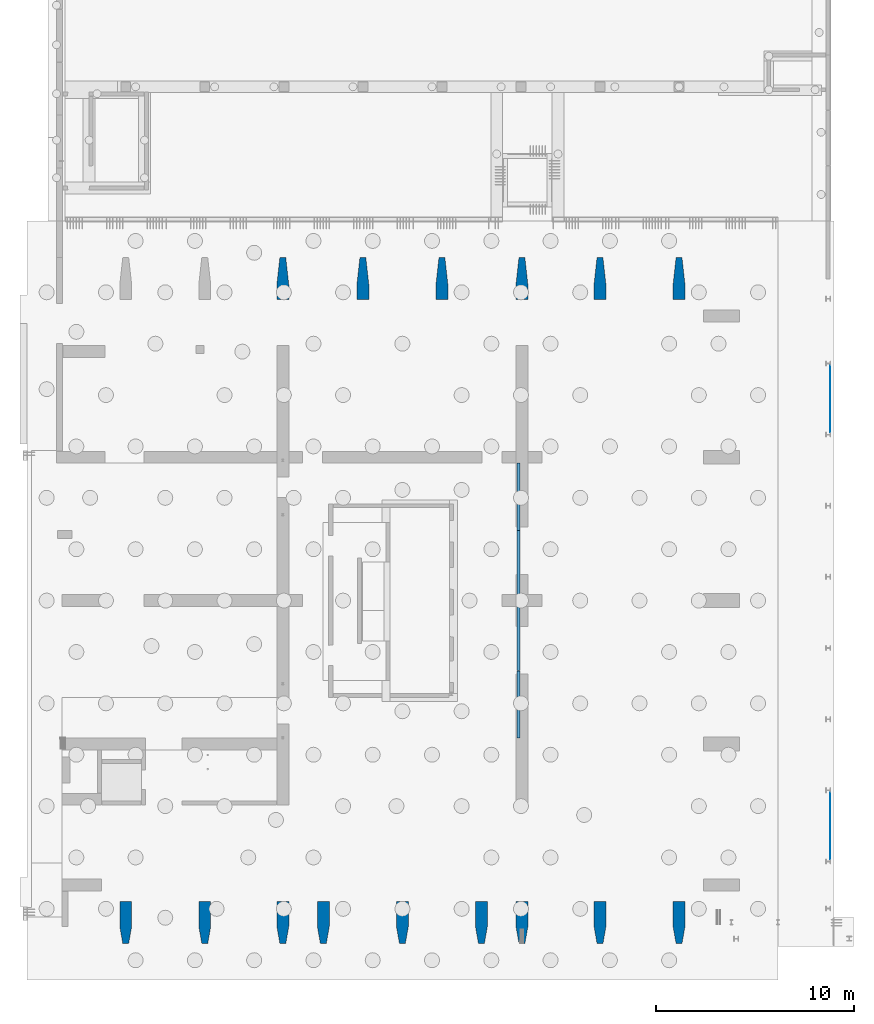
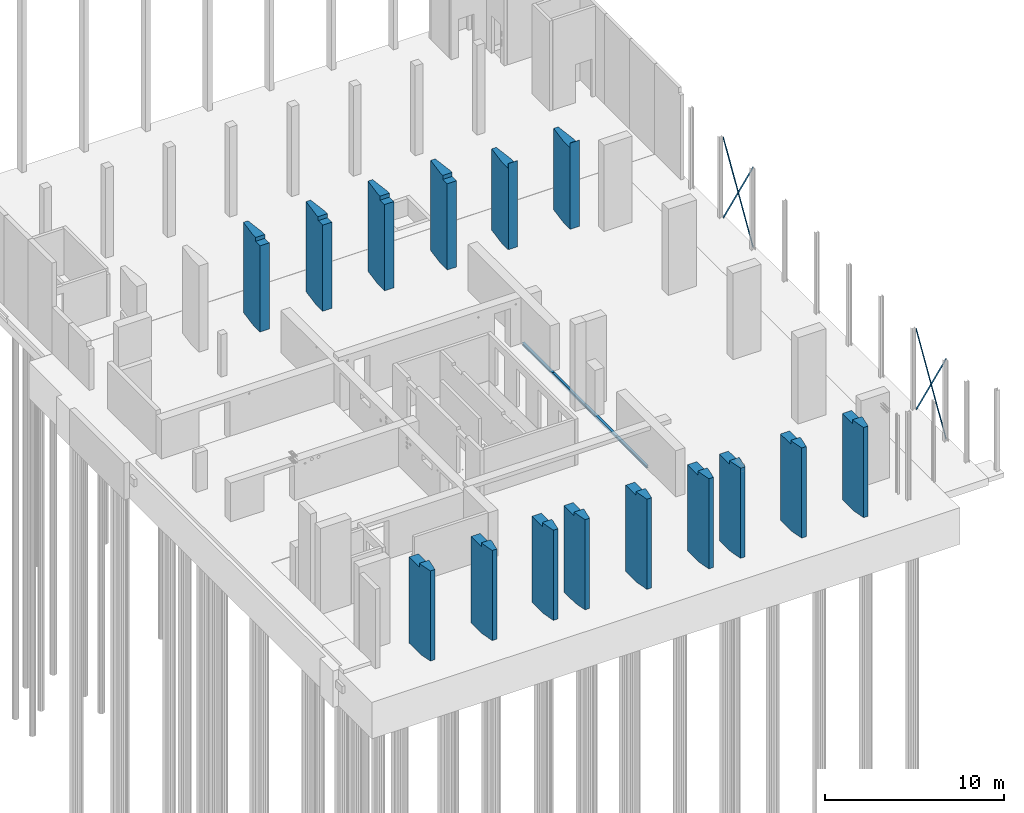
# One storey, part 16 of 26: 15 columns, 8 beams.
"""IFC2X3 building model written with IfcOpenShell, lengths in millimetres."""

from ifc_helpers import new_model, entity, si_unit, converted_unit, derived_unit, direction, frame, frame_2d, origin, place, context, subcontext, project, spatial, polyline, i_section, outline, extrude, faceted_brep, source, transform, mapped, material, type_object, type_shapes, element, save


model = new_model("IFC2X3")

# Units and contexts
model_context = context("Model", 3, precision=0.01, world=origin(), true_north=direction((6.12303176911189e-17, 1.0)))
body_context = subcontext(model_context, "Body", "Model", "MODEL_VIEW")
ifc_project = project(units=[si_unit("LENGTHUNIT", "METRE", prefix="MILLI"), si_unit("AREAUNIT", "SQUARE_METRE"), si_unit("VOLUMEUNIT", "CUBIC_METRE"), converted_unit("PLANEANGLEUNIT", "DEGREE", entity("IfcRatioMeasure", 0.0174532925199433), si_unit("PLANEANGLEUNIT", "RADIAN"), dimensions=[0, 0, 0, 0, 0, 0, 0]), si_unit("MASSUNIT", "GRAM", prefix="KILO"), derived_unit("MASSDENSITYUNIT", [(si_unit("MASSUNIT", "GRAM", prefix="KILO"), 1), (si_unit("LENGTHUNIT", "METRE"), -3)]), si_unit("TIMEUNIT", "SECOND"), si_unit("FREQUENCYUNIT", "HERTZ"), si_unit("THERMODYNAMICTEMPERATUREUNIT", "DEGREE_CELSIUS"), derived_unit("THERMALTRANSMITTANCEUNIT", [(si_unit("MASSUNIT", "GRAM", prefix="KILO"), 1), (si_unit("THERMODYNAMICTEMPERATUREUNIT", "KELVIN"), -1), (si_unit("TIMEUNIT", "SECOND"), -3)]), derived_unit("VOLUMETRICFLOWRATEUNIT", [(si_unit("LENGTHUNIT", "METRE"), 3), (si_unit("TIMEUNIT", "SECOND"), -1)]), si_unit("ELECTRICCURRENTUNIT", "AMPERE"), si_unit("ELECTRICVOLTAGEUNIT", "VOLT"), si_unit("POWERUNIT", "WATT"), si_unit("FORCEUNIT", "NEWTON", prefix="KILO"), si_unit("ILLUMINANCEUNIT", "LUX"), si_unit("LUMINOUSFLUXUNIT", "LUMEN"), si_unit("LUMINOUSINTENSITYUNIT", "CANDELA"), derived_unit("USERDEFINED", [(si_unit("MASSUNIT", "GRAM", prefix="KILO"), -1), (si_unit("LENGTHUNIT", "METRE"), -2), (si_unit("TIMEUNIT", "SECOND"), 3), (si_unit("LUMINOUSFLUXUNIT", "LUMEN"), 1)]), derived_unit("LINEARVELOCITYUNIT", [(si_unit("LENGTHUNIT", "METRE"), 1), (si_unit("TIMEUNIT", "SECOND"), -1)]), si_unit("PRESSUREUNIT", "PASCAL"), derived_unit("USERDEFINED", [(si_unit("LENGTHUNIT", "METRE"), -2), (si_unit("MASSUNIT", "GRAM", prefix="KILO"), 1), (si_unit("TIMEUNIT", "SECOND"), -2)])], contexts=[model_context])

# Site, building, storey
site_placement = place(None, origin())
site = spatial("IfcSite", under=ifc_project, at=site_placement, Name="Default", CompositionType="ELEMENT")
building_placement = place(site_placement, origin())
building = spatial("IfcBuilding", under=site, at=building_placement, Name="niet gebruiken", CompositionType="ELEMENT")
storey_placement = place(building_placement, origin())
storey = spatial("IfcBuildingStorey", under=building, at=storey_placement, Name="00 begane grond", CompositionType="ELEMENT", Elevation=0.0)

# Columns
ifc_material_1 = material(Name="NLRS_f2_beton ihwg")
column_type_1 = type_object("IfcColumnType", Name="600/300x2120/1270", PredefinedType="COLUMN", material=ifc_material_1)
shared_shape_1 = source(origin(), body_context, "Body", "Brep", [
    faceted_brep([(0.0, 850.0, 6160.0), (150.0, 0.0, 6160.0), (450.0, 0.0, 6160.0), (600.0, 850.0, 6160.0), (600.0, 964.0, 6160.0), (0.0, 964.0, 6160.0), (0.0, 2120.0, 0.0), (600.0, 2120.0, 0.0), (600.0, 850.0, 0.0), (450.0, 0.0, 0.0), (150.0, 0.0, 0.0), (0.0, 850.0, 0.0), (0.0, 964.0, 5890.0), (0.0, 2110.0, 5890.0), (0.0, 2120.0, 5890.0), (600.0, 2120.0, 5890.0), (600.0, 1464.0, 5890.0), (600.0, 1454.0, 5890.0), (600.0, 964.0, 5890.0)], [[[0, 1, 2, 3, 4, 5]], [[6, 7, 8, 9, 10, 11]], [[6, 11, 0, 5, 12, 13, 14]], [[2, 1, 10, 9]], [[8, 7, 15, 16, 17, 18, 4, 3]], [[7, 6, 14, 15]], [[1, 0, 11, 10]], [[3, 2, 9, 8]], [[12, 18, 17, 16, 15, 14, 13]], [[18, 12, 5, 4]]]),
])
type_shapes(column_type_1, [shared_shape_1])
column_1_placement = place(storey_placement, frame((127450.0, 150.0, -250.0)))
element("IfcColumn", 1, at=column_1_placement, inside=storey, type_object=column_type_1, material=ifc_material_1, Name="NLRS_28.11_SCO_TLB_beton kolom ihwg V vorm_gen:600/300x2120/1270", ObjectType="600/300x2120/1270", context=body_context, shape_type="MappedRepresentation", body=[
    mapped(shared_shape_1, transform((0.0, 0.0, 0.0), scale=1.0)),
])
column_type_2 = type_object("IfcColumnType", Name="600/300x2120/1270", PredefinedType="COLUMN", material=ifc_material_1)
shared_shape_2 = source(origin(), body_context, "Body", "Brep", [
    faceted_brep([(0.0, 850.0, 6160.0), (150.0, 0.0, 6160.0), (450.0, 0.0, 6160.0), (600.0, 850.0, 6160.0), (600.0, 964.0, 6160.0), (0.0, 964.0, 6160.0), (0.0, 2120.0, 0.0), (600.0, 2120.0, 0.0), (600.0, 850.0, 0.0), (450.0, 0.0, 0.0), (150.0, 0.0, 0.0), (0.0, 850.0, 0.0), (0.0, 964.0, 5890.0), (0.0, 1454.0, 5890.0), (0.0, 1464.0, 5890.0), (0.0, 2120.0, 5890.0), (600.0, 2120.0, 5890.0), (600.0, 1464.0, 5890.0), (600.0, 1454.0, 5890.0), (600.0, 964.0, 5890.0)], [[[0, 1, 2, 3, 4, 5]], [[6, 7, 8, 9, 10, 11]], [[6, 11, 0, 5, 12, 13, 14, 15]], [[2, 1, 10, 9]], [[8, 7, 16, 17, 18, 19, 4, 3]], [[7, 6, 15, 16]], [[1, 0, 11, 10]], [[3, 2, 9, 8]], [[12, 19, 18, 17, 16, 15, 14, 13]], [[19, 12, 5, 4]]]),
])
type_shapes(column_type_2, [shared_shape_2])
column_2_placement = place(storey_placement, frame((131450.0, 150.0, -250.0)))
element("IfcColumn", 2, at=column_2_placement, inside=storey, type_object=column_type_2, material=ifc_material_1, Name="NLRS_28.11_SCO_TLB_beton kolom ihwg V vorm_gen:600/300x2120/1270", ObjectType="600/300x2120/1270", context=body_context, shape_type="MappedRepresentation", body=[
    mapped(shared_shape_2, transform((0.0, 0.0, 0.0), scale=1.0)),
])
column_type_3 = type_object("IfcColumnType", Name="600/300x2120/1270", PredefinedType="COLUMN", material=ifc_material_1)
shared_shape_3 = source(origin(), body_context, "Body", "Brep", [
    faceted_brep([(0.0, 850.0, 6160.0), (150.0, 0.0, 6160.0), (450.0, 0.0, 6160.0), (600.0, 850.0, 6160.0), (600.0, 964.0, 6160.0), (0.0, 964.0, 6160.0), (0.0, 2120.0, 0.0), (600.0, 2120.0, 0.0), (600.0, 850.0, 0.0), (450.0, 0.0, 0.0), (150.0, 0.0, 0.0), (0.0, 850.0, 0.0), (0.0, 964.0, 5890.0), (0.0, 1454.0, 5890.0), (0.0, 1464.0, 5890.0), (0.0, 2120.0, 5890.0), (0.0, 2120.0, 5410.0), (600.0, 2120.0, 5410.0), (600.0, 2120.0, 5890.0), (600.0, 1464.0, 5890.0), (600.0, 1454.0, 5890.0), (600.0, 964.0, 5890.0), (10.0, 2120.0, 5890.0), (590.0, 2120.0, 5890.0)], [[[0, 1, 2, 3, 4, 5]], [[6, 7, 8, 9, 10, 11]], [[6, 11, 0, 5, 12, 13, 14, 15, 16]], [[2, 1, 10, 9]], [[8, 7, 17, 18, 19, 20, 21, 4, 3]], [[7, 6, 16, 15, 22, 23, 18, 17]], [[1, 0, 11, 10]], [[3, 2, 9, 8]], [[12, 21, 20, 19, 18, 23, 22, 15, 14, 13]], [[21, 12, 5, 4]]]),
])
type_shapes(column_type_3, [shared_shape_3])
column_3_placement = place(storey_placement, frame((135400.0, 150.0, -250.0)))
element("IfcColumn", 3, at=column_3_placement, inside=storey, type_object=column_type_3, material=ifc_material_1, Name="NLRS_28.11_SCO_TLB_beton kolom ihwg V vorm_gen:600/300x2120/1270", ObjectType="600/300x2120/1270", context=body_context, shape_type="MappedRepresentation", body=[
    mapped(shared_shape_3, transform((0.0, 0.0, 0.0), scale=1.0)),
])
column_type_4 = type_object("IfcColumnType", Name="600/300x2120/1270", PredefinedType="COLUMN", material=ifc_material_1)
shared_shape_4 = source(origin(), body_context, "Body", "Brep", [
    faceted_brep([(0.0, 850.0, 6160.0), (150.0, 0.0, 6160.0), (450.0, 0.0, 6160.0), (600.0, 850.0, 6160.0), (600.0, 964.0, 6160.0), (0.0, 964.0, 6160.0), (0.0, 2120.0, 0.0), (600.0, 2120.0, 0.0), (600.0, 850.0, 0.0), (450.0, 0.0, 0.0), (150.0, 0.0, 0.0), (0.0, 850.0, 0.0), (0.0, 964.0, 5890.0), (0.0, 1454.0, 5890.0), (0.0, 2120.0, 5890.0), (600.0, 2120.0, 5890.0), (600.0, 1454.0, 5890.0), (600.0, 964.0, 5890.0)], [[[0, 1, 2, 3, 4, 5]], [[6, 7, 8, 9, 10, 11]], [[6, 11, 0, 5, 12, 13, 14]], [[2, 1, 10, 9]], [[8, 7, 15, 16, 17, 4, 3]], [[7, 6, 14, 15]], [[1, 0, 11, 10]], [[3, 2, 9, 8]], [[12, 17, 16, 15, 14, 13]], [[17, 12, 5, 4]]]),
])
type_shapes(column_type_4, [shared_shape_4])
column_4_placement = place(storey_placement, frame((137450.0, 150.0, -250.0)))
element("IfcColumn", 4, at=column_4_placement, inside=storey, type_object=column_type_4, material=ifc_material_1, Name="NLRS_28.11_SCO_TLB_beton kolom ihwg V vorm_gen:600/300x2120/1270", ObjectType="600/300x2120/1270", context=body_context, shape_type="MappedRepresentation", body=[
    mapped(shared_shape_4, transform((0.0, 0.0, 0.0), scale=1.0)),
])
column_type_5 = type_object("IfcColumnType", Name="600/300x2120/1270", PredefinedType="COLUMN", material=ifc_material_1)
shared_shape_5 = source(origin(), body_context, "Body", "Brep", [
    faceted_brep([(0.0, 850.0, 6160.0), (150.0, 0.0, 6160.0), (450.0, 0.0, 6160.0), (600.0, 850.0, 6160.0), (600.0, 964.0, 6160.0), (0.0, 964.0, 6160.0), (0.0, 2120.0, 0.0), (600.0, 2120.0, 0.0), (600.0, 850.0, 0.0), (450.0, 0.0, 0.0), (150.0, 0.0, 0.0), (0.0, 850.0, 0.0), (0.0, 964.0, 5890.0), (0.0, 1454.0, 5890.0), (0.0, 1464.0, 5890.0), (0.0, 2120.0, 5890.0), (600.0, 2120.0, 5890.0), (600.0, 1464.0, 5890.0), (600.0, 1454.0, 5890.0), (600.0, 964.0, 5890.0)], [[[0, 1, 2, 3, 4, 5]], [[6, 7, 8, 9, 10, 11]], [[6, 11, 0, 5, 12, 13, 14, 15]], [[2, 1, 10, 9]], [[8, 7, 16, 17, 18, 19, 4, 3]], [[7, 6, 15, 16]], [[1, 0, 11, 10]], [[3, 2, 9, 8]], [[12, 19, 18, 17, 16, 15, 14, 13]], [[19, 12, 5, 4]]]),
])
type_shapes(column_type_5, [shared_shape_5])
column_5_placement = place(storey_placement, frame((141450.0, 150.0, -250.0)))
element("IfcColumn", 5, at=column_5_placement, inside=storey, type_object=column_type_5, material=ifc_material_1, Name="NLRS_28.11_SCO_TLB_beton kolom ihwg V vorm_gen:600/300x2120/1270", ObjectType="600/300x2120/1270", context=body_context, shape_type="MappedRepresentation", body=[
    mapped(shared_shape_5, transform((0.0, 0.0, 0.0), scale=1.0)),
])
column_type_6 = type_object("IfcColumnType", Name="600/300x2120/1270", PredefinedType="COLUMN", material=ifc_material_1)
shared_shape_6 = source(origin(), body_context, "Body", "Brep", [
    faceted_brep([(0.0, 850.0, 6160.0), (150.0, 0.0, 6160.0), (450.0, 0.0, 6160.0), (600.0, 850.0, 6160.0), (600.0, 964.0, 6160.0), (0.0, 964.0, 6160.0), (0.0, 2120.0, 0.0), (600.0, 2120.0, 0.0), (600.0, 850.0, 0.0), (450.0, 0.0, 0.0), (150.0, 0.0, 0.0), (0.0, 850.0, 0.0), (0.0, 964.0, 5890.0), (0.0, 1454.0, 5890.0), (0.0, 1464.0, 5890.0), (0.0, 2120.0, 5890.0), (600.0, 2120.0, 5890.0), (600.0, 1464.0, 5890.0), (600.0, 1454.0, 5890.0), (600.0, 964.0, 5890.0)], [[[0, 1, 2, 3, 4, 5]], [[6, 7, 8, 9, 10, 11]], [[6, 11, 0, 5, 12, 13, 14, 15]], [[2, 1, 10, 9]], [[8, 7, 16, 17, 18, 19, 4, 3]], [[7, 6, 15, 16]], [[1, 0, 11, 10]], [[3, 2, 9, 8]], [[12, 19, 18, 17, 16, 15, 14, 13]], [[19, 12, 5, 4]]]),
])
type_shapes(column_type_6, [shared_shape_6])
column_6_placement = place(storey_placement, frame((145450.0, 150.0, -250.0)))
element("IfcColumn", 6, at=column_6_placement, inside=storey, type_object=column_type_6, material=ifc_material_1, Name="NLRS_28.11_SCO_TLB_beton kolom ihwg V vorm_gen:600/300x2120/1270", ObjectType="600/300x2120/1270", context=body_context, shape_type="MappedRepresentation", body=[
    mapped(shared_shape_6, transform((0.0, 0.0, 0.0), scale=1.0)),
])
column_type_7 = type_object("IfcColumnType", Name="600/300x2120/1270", PredefinedType="COLUMN", material=ifc_material_1)
shared_shape_7 = source(origin(), body_context, "Body", "Brep", [
    faceted_brep([(0.0, 850.0, 6160.0), (150.0, 0.0, 6160.0), (450.0, 0.0, 6160.0), (600.0, 850.0, 6160.0), (600.0, 964.0, 6160.0), (0.0, 964.0, 6160.0), (0.0, 2120.0, 0.0), (600.0, 2120.0, 0.0), (600.0, 850.0, 0.0), (450.0, 0.0, 0.0), (150.0, 0.0, 0.0), (0.0, 850.0, 0.0), (0.0, 964.0, 5890.0), (0.0, 1454.0, 5890.0), (0.0, 1464.0, 5890.0), (0.0, 2120.0, 5890.0), (600.0, 2120.0, 5890.0), (600.0, 1464.0, 5890.0), (600.0, 1454.0, 5890.0), (600.0, 964.0, 5890.0), (10.0, 2120.0, 5890.0), (590.0, 2120.0, 5890.0)], [[[0, 1, 2, 3, 4, 5]], [[6, 7, 8, 9, 10, 11]], [[6, 11, 0, 5, 12, 13, 14, 15]], [[2, 1, 10, 9]], [[8, 7, 16, 17, 18, 19, 4, 3]], [[7, 6, 15, 20, 21, 16]], [[1, 0, 11, 10]], [[3, 2, 9, 8]], [[12, 19, 18, 17, 16, 21, 20, 15, 14, 13]], [[19, 12, 5, 4]]]),
])
type_shapes(column_type_7, [shared_shape_7])
column_7_placement = place(storey_placement, frame((147500.0, 150.0, -250.0)))
element("IfcColumn", 7, at=column_7_placement, inside=storey, type_object=column_type_7, material=ifc_material_1, Name="NLRS_28.11_SCO_TLB_beton kolom ihwg V vorm_gen:600/300x2120/1270", ObjectType="600/300x2120/1270", context=body_context, shape_type="MappedRepresentation", body=[
    mapped(shared_shape_7, transform((0.0, 0.0, 0.0), scale=1.0)),
])
column_type_8 = type_object("IfcColumnType", Name="600/300x2120/1270", PredefinedType="COLUMN", material=ifc_material_1)
shared_shape_8 = source(origin(), body_context, "Body", "Brep", [
    faceted_brep([(0.0, 850.0, 6160.0), (150.0, 0.0, 6160.0), (450.0, 0.0, 6160.0), (600.0, 850.0, 6160.0), (600.0, 964.0, 6160.0), (0.0, 964.0, 6160.0), (0.0, 2120.0, 0.0), (600.0, 2120.0, 0.0), (600.0, 850.0, 0.0), (450.0, 0.0, 0.0), (150.0, 0.0, 0.0), (0.0, 850.0, 0.0), (0.0, 964.0, 5890.0), (0.0, 1454.0, 5890.0), (0.0, 1464.0, 5890.0), (0.0, 2120.0, 5890.0), (600.0, 2120.0, 5890.0), (600.0, 1464.0, 5890.0), (600.0, 1454.0, 5890.0), (600.0, 964.0, 5890.0)], [[[0, 1, 2, 3, 4, 5]], [[6, 7, 8, 9, 10, 11]], [[6, 11, 0, 5, 12, 13, 14, 15]], [[2, 1, 10, 9]], [[8, 7, 16, 17, 18, 19, 4, 3]], [[7, 6, 15, 16]], [[1, 0, 11, 10]], [[3, 2, 9, 8]], [[12, 19, 18, 17, 16, 15, 14, 13]], [[19, 12, 5, 4]]]),
])
type_shapes(column_type_8, [shared_shape_8])
column_8_placement = place(storey_placement, frame((151450.0, 150.0, -250.0)))
element("IfcColumn", 8, at=column_8_placement, inside=storey, type_object=column_type_8, material=ifc_material_1, Name="NLRS_28.11_SCO_TLB_beton kolom ihwg V vorm_gen:600/300x2120/1270", ObjectType="600/300x2120/1270", context=body_context, shape_type="MappedRepresentation", body=[
    mapped(shared_shape_8, transform((0.0, 0.0, 0.0), scale=1.0)),
])
column_type_9 = type_object("IfcColumnType", Name="600/300x2120/1270", PredefinedType="COLUMN", material=ifc_material_1)
shared_shape_9 = source(origin(), body_context, "Body", "Brep", [
    faceted_brep([(0.0, 850.0, 6160.0), (150.0, 0.0, 6160.0), (450.0, 0.0, 6160.0), (600.0, 850.0, 6160.0), (600.0, 964.0, 6160.0), (0.0, 964.0, 6160.0), (0.0, 2120.0, 0.0), (600.0, 2120.0, 0.0), (600.0, 850.0, 0.0), (450.0, 0.0, 0.0), (150.0, 0.0, 0.0), (0.0, 850.0, 0.0), (0.0, 964.0, 5890.0), (0.0, 1454.0, 5890.0), (0.0, 1464.0, 5890.0), (0.0, 2120.0, 5890.0), (600.0, 2120.0, 5890.0), (600.0, 2110.0, 5890.0), (600.0, 964.0, 5890.0)], [[[0, 1, 2, 3, 4, 5]], [[6, 7, 8, 9, 10, 11]], [[6, 11, 0, 5, 12, 13, 14, 15]], [[2, 1, 10, 9]], [[8, 7, 16, 17, 18, 4, 3]], [[7, 6, 15, 16]], [[1, 0, 11, 10]], [[3, 2, 9, 8]], [[12, 18, 17, 16, 15, 14, 13]], [[18, 12, 5, 4]]]),
])
type_shapes(column_type_9, [shared_shape_9])
column_9_placement = place(storey_placement, frame((155450.0, 150.0, -250.0)))
element("IfcColumn", 9, at=column_9_placement, inside=storey, type_object=column_type_9, material=ifc_material_1, Name="NLRS_28.11_SCO_TLB_beton kolom ihwg V vorm_gen:600/300x2120/1270", ObjectType="600/300x2120/1270", context=body_context, shape_type="MappedRepresentation", body=[
    mapped(shared_shape_9, transform((0.0, 0.0, 0.0), scale=1.0)),
])
column_type_10 = type_object("IfcColumnType", Name="600/300x2120/770", PredefinedType="COLUMN", material=ifc_material_1)
shared_shape_10 = source(origin(), body_context, "Body", "Brep", [
    faceted_brep([(600.0, 20.0, 5890.0), (600.0, 0.0, 5890.0), (600.0, 0.0, 0.0), (600.0, 770.0, 0.0), (600.0, 770.0, 5560.0), (600.0, 20.0, 5560.0), (450.0, 2120.0, 0.0), (150.0, 2120.0, 0.0), (150.0, 2120.0, 5560.0), (450.0, 2120.0, 5560.0), (0.0, 0.0, 5890.0), (0.0, 20.0, 5890.0), (0.0, 20.0, 5560.0), (0.0, 770.0, 5560.0), (0.0, 770.0, 0.0), (0.0, 0.0, 0.0)], [[[0, 1, 2, 3, 4, 5]], [[6, 7, 8, 9]], [[10, 11, 12, 13, 14, 15]], [[1, 10, 15, 2]], [[3, 6, 9, 4]], [[7, 14, 13, 8]], [[3, 2, 15, 14, 7, 6]], [[1, 0, 11, 10]], [[12, 5, 4, 9, 8, 13]], [[5, 12, 11, 0]]]),
])
type_shapes(column_type_10, [shared_shape_10])
column_10_placement = place(storey_placement, frame((155450.0, 32730.0, -250.0)))
element("IfcColumn", 10, at=column_10_placement, inside=storey, type_object=column_type_10, material=ifc_material_1, Name="NLRS_28.11_SCO_TLB_beton kolom ihwg V vorm_gen:600/300x2120/770", ObjectType="600/300x2120/770", context=body_context, shape_type="MappedRepresentation", body=[
    mapped(shared_shape_10, transform((0.0, 0.0, 0.0), scale=1.0)),
])
column_type_11 = type_object("IfcColumnType", Name="600/300x2120/770", PredefinedType="COLUMN", material=ifc_material_1)
shared_shape_11 = source(origin(), body_context, "Body", "Brep", [
    faceted_brep([(0.0, 0.0, 5890.0), (600.0, 0.0, 5890.0), (600.0, 20.0, 5890.0), (0.0, 20.0, 5890.0), (600.0, 0.0, 0.0), (0.0, 0.0, 0.0), (0.0, 770.0, 0.0), (150.0, 2120.0, 0.0), (450.0, 2120.0, 0.0), (600.0, 770.0, 0.0), (600.0, 770.0, 5560.0), (600.0, 20.0, 5560.0), (150.0, 2120.0, 5560.0), (450.0, 2120.0, 5560.0), (0.0, 0.0, 5560.0), (0.0, 20.0, 5560.0), (0.0, 770.0, 5560.0)], [[[0, 1, 2, 3]], [[4, 5, 6, 7, 8, 9]], [[4, 9, 10, 11, 2, 1]], [[8, 7, 12, 13]], [[6, 5, 14, 0, 3, 15, 16]], [[1, 0, 14, 5, 4]], [[9, 8, 13, 10]], [[7, 6, 16, 12]], [[15, 11, 10, 13, 12, 16]], [[11, 15, 3, 2]]]),
])
type_shapes(column_type_11, [shared_shape_11])
column_11_placement = place(storey_placement, frame((151450.0, 32730.0, -250.0)))
element("IfcColumn", 11, at=column_11_placement, inside=storey, type_object=column_type_11, material=ifc_material_1, Name="NLRS_28.11_SCO_TLB_beton kolom ihwg V vorm_gen:600/300x2120/770", ObjectType="600/300x2120/770", context=body_context, shape_type="MappedRepresentation", body=[
    mapped(shared_shape_11, transform((0.0, 0.0, 0.0), scale=1.0)),
])
column_type_12 = type_object("IfcColumnType", Name="600/300x2120/770", PredefinedType="COLUMN", material=ifc_material_1)
shared_shape_12 = source(origin(), body_context, "Body", "Brep", [
    faceted_brep([(600.0, 770.0, 6160.0), (450.0, 2120.0, 6160.0), (150.0, 2120.0, 6160.0), (0.0, 770.0, 6160.0), (0.0, 500.0, 6160.0), (600.0, 500.0, 6160.0), (600.0, 0.0, 0.0), (0.0, 0.0, 0.0), (0.0, 770.0, 0.0), (150.0, 2120.0, 0.0), (450.0, 2120.0, 0.0), (600.0, 770.0, 0.0), (600.0, 500.0, 5890.0), (600.0, 10.0, 5890.0), (600.0, 0.0, 5890.0), (600.0, 0.0, 5560.0), (600.0, 0.0, 5415.0), (0.0, 0.0, 5415.0), (0.0, 0.0, 5560.0), (0.0, 0.0, 5890.0), (0.0, 10.0, 5890.0), (0.0, 500.0, 5890.0), (590.0, 0.0, 5890.0), (10.0, 0.0, 5890.0)], [[[0, 1, 2, 3, 4, 5]], [[6, 7, 8, 9, 10, 11]], [[6, 11, 0, 5, 12, 13, 14, 15, 16]], [[2, 1, 10, 9]], [[8, 7, 17, 18, 19, 20, 21, 4, 3]], [[7, 6, 16, 15, 14, 22, 23, 19, 18, 17]], [[1, 0, 11, 10]], [[3, 2, 9, 8]], [[12, 21, 20, 19, 23, 22, 14, 13]], [[21, 12, 5, 4]]]),
])
type_shapes(column_type_12, [shared_shape_12])
column_12_placement = place(storey_placement, frame((147500.0, 32730.0, -250.0)))
element("IfcColumn", 12, at=column_12_placement, inside=storey, type_object=column_type_12, material=ifc_material_1, Name="NLRS_28.11_SCO_TLB_beton kolom ihwg V vorm_gen:600/300x2120/770", ObjectType="600/300x2120/770", context=body_context, shape_type="MappedRepresentation", body=[
    mapped(shared_shape_12, transform((0.0, 0.0, 0.0), scale=1.0)),
])
column_type_13 = type_object("IfcColumnType", Name="600/300x2120/770", PredefinedType="COLUMN", material=ifc_material_1)
shared_shape_13 = source(origin(), body_context, "Body", "Brep", [
    faceted_brep([(600.0, 770.0, 6160.0), (450.0, 2120.0, 6160.0), (150.0, 2120.0, 6160.0), (0.0, 770.0, 6160.0), (0.0, 500.0, 6160.0), (600.0, 500.0, 6160.0), (600.0, 0.0, 0.0), (0.0, 0.0, 0.0), (0.0, 770.0, 0.0), (150.0, 2120.0, 0.0), (450.0, 2120.0, 0.0), (600.0, 770.0, 0.0), (600.0, 500.0, 5890.0), (600.0, 10.0, 5890.0), (600.0, 0.0, 5890.0), (600.0, 0.0, 5560.0), (0.0, 0.0, 5560.0), (0.0, 0.0, 5890.0), (0.0, 10.0, 5890.0), (0.0, 500.0, 5890.0)], [[[0, 1, 2, 3, 4, 5]], [[6, 7, 8, 9, 10, 11]], [[6, 11, 0, 5, 12, 13, 14, 15]], [[2, 1, 10, 9]], [[8, 7, 16, 17, 18, 19, 4, 3]], [[7, 6, 15, 14, 17, 16]], [[1, 0, 11, 10]], [[3, 2, 9, 8]], [[12, 19, 18, 17, 14, 13]], [[19, 12, 5, 4]]]),
])
type_shapes(column_type_13, [shared_shape_13])
column_13_placement = place(storey_placement, frame((143450.0, 32730.0, -250.0)))
element("IfcColumn", 13, at=column_13_placement, inside=storey, type_object=column_type_13, material=ifc_material_1, Name="NLRS_28.11_SCO_TLB_beton kolom ihwg V vorm_gen:600/300x2120/770", ObjectType="600/300x2120/770", context=body_context, shape_type="MappedRepresentation", body=[
    mapped(shared_shape_13, transform((0.0, 0.0, 0.0), scale=1.0)),
])
column_type_14 = type_object("IfcColumnType", Name="600/300x2120/770", PredefinedType="COLUMN", material=ifc_material_1)
shared_shape_14 = source(origin(), body_context, "Body", "Brep", [
    faceted_brep([(600.0, 770.0, 6160.0), (450.0, 2120.0, 6160.0), (150.0, 2120.0, 6160.0), (0.0, 770.0, 6160.0), (0.0, 500.0, 6160.0), (600.0, 500.0, 6160.0), (600.0, 0.0, 0.0), (0.0, 0.0, 0.0), (0.0, 770.0, 0.0), (150.0, 2120.0, 0.0), (450.0, 2120.0, 0.0), (600.0, 770.0, 0.0), (600.0, 500.0, 5890.0), (600.0, 10.0, 5890.0), (600.0, 0.0, 5890.0), (600.0, 0.0, 5560.0), (0.0, 0.0, 5560.0), (0.0, 0.0, 5890.0), (0.0, 10.0, 5890.0), (0.0, 500.0, 5890.0)], [[[0, 1, 2, 3, 4, 5]], [[6, 7, 8, 9, 10, 11]], [[6, 11, 0, 5, 12, 13, 14, 15]], [[2, 1, 10, 9]], [[8, 7, 16, 17, 18, 19, 4, 3]], [[7, 6, 15, 14, 17, 16]], [[1, 0, 11, 10]], [[3, 2, 9, 8]], [[12, 19, 18, 17, 14, 13]], [[19, 12, 5, 4]]]),
])
type_shapes(column_type_14, [shared_shape_14])
column_14_placement = place(storey_placement, frame((139450.0, 32730.0, -250.0)))
element("IfcColumn", 14, at=column_14_placement, inside=storey, type_object=column_type_14, material=ifc_material_1, Name="NLRS_28.11_SCO_TLB_beton kolom ihwg V vorm_gen:600/300x2120/770", ObjectType="600/300x2120/770", context=body_context, shape_type="MappedRepresentation", body=[
    mapped(shared_shape_14, transform((0.0, 0.0, 0.0), scale=1.0)),
])
column_type_15 = type_object("IfcColumnType", Name="600/300x2120/770", PredefinedType="COLUMN", material=ifc_material_1)
shared_shape_15 = source(origin(), body_context, "Body", "Brep", [
    faceted_brep([(600.0, 770.0, 6160.0), (450.0, 2120.0, 6160.0), (150.0, 2120.0, 6160.0), (0.0, 770.0, 6160.0), (0.0, 500.0, 6160.0), (600.0, 500.0, 6160.0), (600.0, 0.0, 0.0), (0.0, 0.0, 0.0), (0.0, 770.0, 0.0), (150.0, 2120.0, 0.0), (450.0, 2120.0, 0.0), (600.0, 770.0, 0.0), (600.0, 500.0, 5890.0), (600.0, 10.0, 5890.0), (600.0, 0.0, 5890.0), (600.0, 0.0, 5560.0), (600.0, 0.0, 5430.0), (0.0, 0.0, 5430.0), (0.0, 0.0, 5560.0), (0.0, 0.0, 5890.0), (0.0, 10.0, 5890.0), (0.0, 500.0, 5890.0), (590.0, 0.0, 5890.0), (10.0, 0.0, 5890.0)], [[[0, 1, 2, 3, 4, 5]], [[6, 7, 8, 9, 10, 11]], [[6, 11, 0, 5, 12, 13, 14, 15, 16]], [[2, 1, 10, 9]], [[8, 7, 17, 18, 19, 20, 21, 4, 3]], [[7, 6, 16, 15, 14, 22, 23, 19, 18, 17]], [[1, 0, 11, 10]], [[3, 2, 9, 8]], [[12, 21, 20, 19, 23, 22, 14, 13]], [[21, 12, 5, 4]]]),
])
type_shapes(column_type_15, [shared_shape_15])
column_15_placement = place(storey_placement, frame((135400.0, 32730.0, -250.0)))
element("IfcColumn", 15, at=column_15_placement, inside=storey, type_object=column_type_15, material=ifc_material_1, Name="NLRS_28.11_SCO_TLB_beton kolom ihwg V vorm_gen:600/300x2120/770", ObjectType="600/300x2120/770", context=body_context, shape_type="MappedRepresentation", body=[
    mapped(shared_shape_15, transform((0.0, 0.0, 0.0), scale=1.0)),
])

# Beams
ifc_material_2 = material(Name="NLRS_h2_staal")
beam_type_1 = type_object("IfcBeamType", Name="NLRS_28.11_SF_WPB_stalen ligger HEB_gen:ligger HEB 160", PredefinedType="BEAM")
beam_1_placement = place(storey_placement, frame((147625.0, 17495.25, -200.0), z_axis=(0.0, 0.0, 1.0), x_axis=(0.0, -1.0, 0.0)))
element("IfcBeam", 16, at=beam_1_placement, inside=storey, type_object=beam_type_1, material=ifc_material_2, Name="NLRS_28.11_SF_WPB_stalen ligger HEB_gen:ligger HEB 160", ObjectType="NLRS_28.11_SF_WPB_stalen ligger HEB_gen:ligger HEB 160", context=body_context, shape_type="SweptSolid", body=[
    extrude(i_section(OverallWidth=159.999999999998, OverallDepth=160.000000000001, WebThickness=7.99999999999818, FlangeThickness=12.9999999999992, FilletRadius=14.9999999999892, at=frame_2d((-8.45545855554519e-13, -1.73301373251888e-11), x_axis=(0.0, 1.0))), frame((0.0, 0.0, -80.0), z_axis=(1.0, 0.0, 0.0), x_axis=(0.0, 0.0, -1.0)), (0.0, 0.0, 1.0), 3540.5),
])
beam_2_placement = place(storey_placement, frame((147625.0, 13945.25, -200.0), z_axis=(0.0, 0.0, 1.0), x_axis=(0.0, -1.0, 0.0)))
element("IfcBeam", 17, at=beam_2_placement, inside=storey, type_object=beam_type_1, material=ifc_material_2, Name="NLRS_28.11_SF_WPB_stalen ligger HEB_gen:ligger HEB 160", ObjectType="NLRS_28.11_SF_WPB_stalen ligger HEB_gen:ligger HEB 160", context=body_context, shape_type="SweptSolid", body=[
    extrude(i_section(OverallWidth=159.999999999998, OverallDepth=160.000000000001, WebThickness=7.99999999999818, FlangeThickness=12.9999999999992, FilletRadius=14.9999999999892, at=frame_2d((-8.45545855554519e-13, 0.0), x_axis=(0.0, 1.0))), frame((0.0, 0.0, -80.0), z_axis=(1.0, 0.0, 0.0), x_axis=(0.0, 0.0, -1.0)), (0.0, 0.0, 1.0), 3410.25),
])
beam_3_placement = place(storey_placement, frame((147625.0, 21045.25, -200.0), z_axis=(0.0, 0.0, 1.0), x_axis=(0.0, -1.0, 0.0)))
element("IfcBeam", 18, at=beam_3_placement, inside=storey, type_object=beam_type_1, material=ifc_material_2, Name="NLRS_28.11_SF_WPB_stalen ligger HEB_gen:ligger HEB 160", ObjectType="NLRS_28.11_SF_WPB_stalen ligger HEB_gen:ligger HEB 160", context=body_context, shape_type="SweptSolid", body=[
    extrude(i_section(OverallWidth=159.999999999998, OverallDepth=160.000000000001, WebThickness=7.99999999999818, FlangeThickness=12.9999999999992, FilletRadius=14.9999999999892, at=frame_2d((-8.45545855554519e-13, -1.73301373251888e-11), x_axis=(0.0, 1.0))), frame((0.0, 0.0, -80.0), z_axis=(1.0, 0.0, 0.0), x_axis=(0.0, 0.0, -1.0)), (0.0, 0.0, 1.0), 3540.5),
])
beam_4_placement = place(storey_placement, frame((147625.0, 24465.0, -200.0), z_axis=(0.0, 0.0, 1.0), x_axis=(0.0, -1.0, 0.0)))
element("IfcBeam", 19, at=beam_4_placement, inside=storey, type_object=beam_type_1, material=ifc_material_2, Name="NLRS_28.11_SF_WPB_stalen ligger HEB_gen:ligger HEB 160", ObjectType="NLRS_28.11_SF_WPB_stalen ligger HEB_gen:ligger HEB 160", context=body_context, shape_type="SweptSolid", body=[
    extrude(i_section(OverallWidth=159.999999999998, OverallDepth=160.000000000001, WebThickness=7.99999999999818, FlangeThickness=12.9999999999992, FilletRadius=14.9999999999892, at=frame_2d((-8.45545855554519e-13, -1.73301373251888e-11), x_axis=(0.0, 1.0))), frame((0.0, 0.0, -80.0), z_axis=(1.0, 0.0, 0.0), x_axis=(0.0, 0.0, -1.0)), (0.0, 0.0, 1.0), 3410.25),
])
beam_type_2 = type_object("IfcBeamType", Name="ligger stripstaal RECT_100x10 gedraaid", PredefinedType="BEAM", material=ifc_material_2)
shared_shape_16 = source(origin(), body_context, "Body", "SweptSolid", [
    extrude(outline(polyline([(2645.80446648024, -1676.34248740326), (2778.51677519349, -1676.34248740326), (2778.5167751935, -1640.16563237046), (-2669.78556725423, 1683.65751259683), (-2766.5262248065, 1683.65751259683), (-2766.5262248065, 1625.53558198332), (2645.80446648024, -1676.34248740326)])), frame((163400.0, 6103.65751259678, 2546.48322480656), z_axis=(1.0, 0.0, 0.0), x_axis=(0.0, 0.0, 1.0)), (0.0, 0.0, 1.0), 10.0000000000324),
    extrude(outline(polyline([(2645.80446648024, -1676.34248740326), (2778.51677519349, -1676.34248740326), (2778.5167751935, -1640.16563237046), (-2669.78556725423, 1683.65751259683), (-2766.5262248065, 1683.65751259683), (-2766.5262248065, 1625.53558198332), (2645.80446648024, -1676.34248740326)])), frame((163400.0, 6103.65751259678, 2546.48322480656), z_axis=(1.0, 0.0, 0.0), x_axis=(0.0, 0.0, 1.0)), (0.0, 0.0, 1.0), 10.0000000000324),
])
type_shapes(beam_type_2, [shared_shape_16])
beam_5_placement = place(storey_placement, origin())
element("IfcBeam", 20, at=beam_5_placement, inside=storey, type_object=beam_type_2, material=ifc_material_2, Name="NLRS_28.11_SF_WPB_stalen ligger stripstaal_gen:ligger stripstaal RECT_100x10 gedraaid", ObjectType="ligger stripstaal RECT_100x10 gedraaid", context=body_context, shape_type="MappedRepresentation", body=[
    mapped(shared_shape_16, transform((0.0, 0.0, 0.0), scale=1.0)),
])
beam_type_3 = type_object("IfcBeamType", Name="ligger stripstaal RECT_100x10 gedraaid", PredefinedType="BEAM", material=ifc_material_2)
shared_shape_17 = source(origin(), body_context, "Body", "SweptSolid", [
    extrude(outline(polyline([(1640.16586695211, -2778.51696745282), (1676.34237011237, -2778.51696745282), (1676.34237011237, -2645.8040819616), (-1625.53534740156, 2766.52603254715), (-1683.65762988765, 2766.52603254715), (-1683.65762988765, 2669.78595177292), (1640.16586695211, -2778.51696745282)])), frame((163400.0, 6096.34237011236, 2546.48303254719), z_axis=(1.0, 0.0, 0.0), x_axis=(0.0, -1.0, 0.0)), (0.0, 0.0, 1.0), 10.0000000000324),
    extrude(outline(polyline([(1640.16586695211, -2778.51696745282), (1676.34237011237, -2778.51696745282), (1676.34237011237, -2645.8040819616), (-1625.53534740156, 2766.52603254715), (-1683.65762988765, 2766.52603254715), (-1683.65762988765, 2669.78595177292), (1640.16586695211, -2778.51696745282)])), frame((163400.0, 6096.34237011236, 2546.48303254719), z_axis=(1.0, 0.0, 0.0), x_axis=(0.0, -1.0, 0.0)), (0.0, 0.0, 1.0), 10.0000000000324),
])
type_shapes(beam_type_3, [shared_shape_17])
beam_6_placement = place(storey_placement, origin())
element("IfcBeam", 21, at=beam_6_placement, inside=storey, type_object=beam_type_3, material=ifc_material_2, Name="NLRS_28.11_SF_WPB_stalen ligger stripstaal_gen:ligger stripstaal RECT_100x10 gedraaid", ObjectType="ligger stripstaal RECT_100x10 gedraaid", context=body_context, shape_type="MappedRepresentation", body=[
    mapped(shared_shape_17, transform((0.0, 0.0, 0.0), scale=1.0)),
])
beam_type_4 = type_object("IfcBeamType", Name="ligger stripstaal RECT_100x10 gedraaid", PredefinedType="BEAM", material=ifc_material_2)
shared_shape_18 = source(origin(), body_context, "Body", "SweptSolid", [
    extrude(outline(polyline([(2645.80446648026, -1676.34248740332), (2778.51677519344, -1676.34248740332), (2778.51677519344, -1640.16563237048), (-2669.78556725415, 1683.65751259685), (-2766.5262248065, 1683.65751259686), (-2766.5262248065, 1625.5355819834), (2645.80446648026, -1676.34248740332)])), frame((163400.0, 27703.6575125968, 2546.48322480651), z_axis=(1.0, 0.0, 0.0), x_axis=(0.0, 0.0, 1.0)), (0.0, 0.0, 1.0), 10.0000000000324),
    extrude(outline(polyline([(2645.80446648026, -1676.34248740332), (2778.51677519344, -1676.34248740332), (2778.51677519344, -1640.16563237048), (-2669.78556725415, 1683.65751259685), (-2766.5262248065, 1683.65751259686), (-2766.5262248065, 1625.5355819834), (2645.80446648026, -1676.34248740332)])), frame((163400.0, 27703.6575125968, 2546.48322480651), z_axis=(1.0, 0.0, 0.0), x_axis=(0.0, 0.0, 1.0)), (0.0, 0.0, 1.0), 10.0000000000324),
])
type_shapes(beam_type_4, [shared_shape_18])
beam_7_placement = place(storey_placement, origin())
element("IfcBeam", 22, at=beam_7_placement, inside=storey, type_object=beam_type_4, material=ifc_material_2, Name="NLRS_28.11_SF_WPB_stalen ligger stripstaal_gen:ligger stripstaal RECT_100x10 gedraaid", ObjectType="ligger stripstaal RECT_100x10 gedraaid", context=body_context, shape_type="MappedRepresentation", body=[
    mapped(shared_shape_18, transform((0.0, 0.0, 0.0), scale=1.0)),
])
beam_type_5 = type_object("IfcBeamType", Name="ligger stripstaal RECT_100x10 gedraaid", PredefinedType="BEAM", material=ifc_material_2)
shared_shape_19 = source(origin(), body_context, "Body", "SweptSolid", [
    extrude(outline(polyline([(1640.16586695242, -2778.5169674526), (1676.34237011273, -2778.5169674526), (1676.34237011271, -2645.80408196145), (-1625.53534740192, 2766.52603254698), (-1683.65762988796, 2766.52603254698), (-1683.65762988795, 2669.78595177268), (1640.16586695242, -2778.5169674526)])), frame((163400.0, 27696.3423701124, 2546.48303254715), z_axis=(1.0, 0.0, 0.0), x_axis=(0.0, -1.0, 0.0)), (0.0, 0.0, 1.0), 10.0000000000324),
    extrude(outline(polyline([(1640.16586695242, -2778.5169674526), (1676.34237011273, -2778.5169674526), (1676.34237011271, -2645.80408196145), (-1625.53534740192, 2766.52603254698), (-1683.65762988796, 2766.52603254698), (-1683.65762988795, 2669.78595177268), (1640.16586695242, -2778.5169674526)])), frame((163400.0, 27696.3423701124, 2546.48303254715), z_axis=(1.0, 0.0, 0.0), x_axis=(0.0, -1.0, 0.0)), (0.0, 0.0, 1.0), 10.0000000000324),
])
type_shapes(beam_type_5, [shared_shape_19])
beam_8_placement = place(storey_placement, origin())
element("IfcBeam", 23, at=beam_8_placement, inside=storey, type_object=beam_type_5, material=ifc_material_2, Name="NLRS_28.11_SF_WPB_stalen ligger stripstaal_gen:ligger stripstaal RECT_100x10 gedraaid", ObjectType="ligger stripstaal RECT_100x10 gedraaid", context=body_context, shape_type="MappedRepresentation", body=[
    mapped(shared_shape_19, transform((0.0, 0.0, 0.0), scale=1.0)),
])

save(model, "model.ifc")
